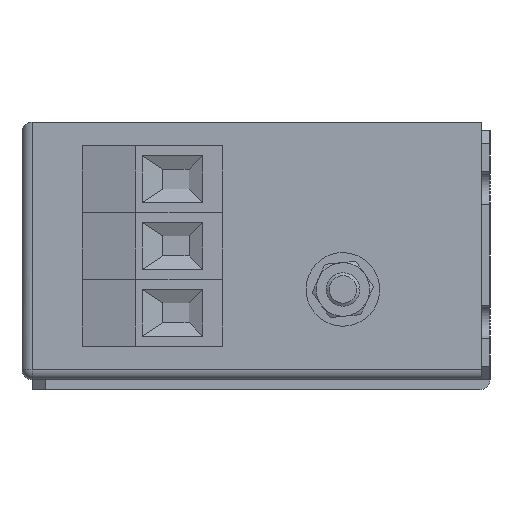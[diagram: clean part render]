
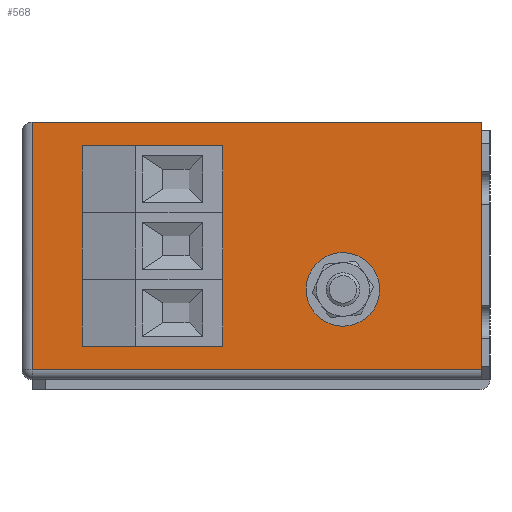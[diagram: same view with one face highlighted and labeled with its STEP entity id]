
A CAD part, left-side view. The second image highlights one B-rep face of the part: STEP entity #568.
In plain terms, the highlighted planar face has unit normal (-1, 0, 0).
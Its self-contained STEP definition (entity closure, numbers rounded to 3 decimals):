
#73 = ORIENTED_EDGE ( 'NONE', *, *, #591, .T. ) ;
#77 = EDGE_CURVE ( 'NONE', #2607, #2592, #2736, .T. ) ;
#524 = EDGE_CURVE ( 'NONE', #585, #586, #3452, .T. ) ;
#535 = VERTEX_POINT ( 'NONE', #3486 ) ;
#538 = VERTEX_POINT ( 'NONE', #3483 ) ;
#542 = VERTEX_POINT ( 'NONE', #3478 ) ;
#543 = VERTEX_POINT ( 'NONE', #3542 ) ;
#547 = EDGE_CURVE ( 'NONE', #543, #542, #3539, .T. ) ;
#564 = ORIENTED_EDGE ( 'NONE', *, *, #77, .T. ) ;
#568 = ADVANCED_FACE ( 'NONE', ( #3569, #3568, #3567, #3566, #3565 ), #3564, .F. ) ;
#569 = EDGE_LOOP ( 'NONE', ( #564, #614 ) ) ;
#585 = VERTEX_POINT ( 'NONE', #3598 ) ;
#586 = VERTEX_POINT ( 'NONE', #3597 ) ;
#591 = EDGE_CURVE ( 'NONE', #535, #538, #3578, .T. ) ;
#614 = ORIENTED_EDGE ( 'NONE', *, *, #2606, .T. ) ;
#615 = EDGE_CURVE ( 'NONE', #2601, #2600, #3613, .T. ) ;
#616 = EDGE_LOOP ( 'NONE', ( #619, #622 ) ) ;
#617 = EDGE_LOOP ( 'NONE', ( #618, #623 ) ) ;
#618 = ORIENTED_EDGE ( 'NONE', *, *, #615, .T. ) ;
#619 = ORIENTED_EDGE ( 'NONE', *, *, #621, .T. ) ;
#620 = EDGE_LOOP ( 'NONE', ( #741, #747 ) ) ;
#621 = EDGE_CURVE ( 'NONE', #542, #543, #3661, .T. ) ;
#622 = ORIENTED_EDGE ( 'NONE', *, *, #547, .T. ) ;
#623 = ORIENTED_EDGE ( 'NONE', *, *, #2599, .T. ) ;
#628 = EDGE_CURVE ( 'NONE', #636, #629, #3642, .T. ) ;
#629 = VERTEX_POINT ( 'NONE', #3638 ) ;
#636 = VERTEX_POINT ( 'NONE', #3672 ) ;
#728 = ORIENTED_EDGE ( 'NONE', *, *, #733, .T. ) ;
#732 = ORIENTED_EDGE ( 'NONE', *, *, #628, .T. ) ;
#733 = EDGE_CURVE ( 'NONE', #538, #636, #3829, .T. ) ;
#740 = VERTEX_POINT ( 'NONE', #3816 ) ;
#741 = ORIENTED_EDGE ( 'NONE', *, *, #746, .T. ) ;
#742 = EDGE_CURVE ( 'NONE', #740, #629, #3879, .T. ) ;
#743 = ORIENTED_EDGE ( 'NONE', *, *, #742, .F. ) ;
#744 = ORIENTED_EDGE ( 'NONE', *, *, #745, .T. ) ;
#745 = EDGE_CURVE ( 'NONE', #740, #535, #3875, .T. ) ;
#746 = EDGE_CURVE ( 'NONE', #586, #585, #3871, .T. ) ;
#747 = ORIENTED_EDGE ( 'NONE', *, *, #524, .T. ) ;
#748 = EDGE_LOOP ( 'NONE', ( #743, #744, #73, #728, #732 ) ) ;
#2592 = VERTEX_POINT ( 'NONE', #7129 ) ;
#2599 = EDGE_CURVE ( 'NONE', #2600, #2601, #7110, .T. ) ;
#2600 = VERTEX_POINT ( 'NONE', #7105 ) ;
#2601 = VERTEX_POINT ( 'NONE', #7104 ) ;
#2606 = EDGE_CURVE ( 'NONE', #2592, #2607, #7157, .T. ) ;
#2607 = VERTEX_POINT ( 'NONE', #7152 ) ;
#2732 = DIRECTION ( 'NONE',  ( 0., 0., -1. ) ) ;
#2733 = DIRECTION ( 'NONE',  ( 1., 0., 0. ) ) ;
#2734 = CARTESIAN_POINT ( 'NONE',  ( 15., 22., -23.8 ) ) ;
#2735 = AXIS2_PLACEMENT_3D ( 'NONE', #2734, #2733, #2732 ) ;
#2736 = CIRCLE ( 'NONE', #2735, 2.5 ) ;
#3448 = DIRECTION ( 'NONE',  ( 0., 0., -1. ) ) ;
#3449 = DIRECTION ( 'NONE',  ( 1., 0., 0. ) ) ;
#3450 = CARTESIAN_POINT ( 'NONE',  ( 15., 50., -17.3 ) ) ;
#3451 = AXIS2_PLACEMENT_3D ( 'NONE', #3450, #3449, #3448 ) ;
#3452 = CIRCLE ( 'NONE', #3451, 4.1 ) ;
#3478 = CARTESIAN_POINT ( 'NONE',  ( 15., 50., -31.4 ) ) ;
#3483 = CARTESIAN_POINT ( 'NONE',  ( 15., 1.2, -35.8 ) ) ;
#3486 = CARTESIAN_POINT ( 'NONE',  ( 15., 68.5, -35.8 ) ) ;
#3531 = DIRECTION ( 'NONE',  ( 0., 0., -1. ) ) ;
#3532 = DIRECTION ( 'NONE',  ( 1., 0., 0. ) ) ;
#3533 = CARTESIAN_POINT ( 'NONE',  ( 15., 50., -27.3 ) ) ;
#3534 = AXIS2_PLACEMENT_3D ( 'NONE', #3533, #3532, #3531 ) ;
#3539 = CIRCLE ( 'NONE', #3534, 4.1 ) ;
#3542 = CARTESIAN_POINT ( 'NONE',  ( 15., 50., -23.2 ) ) ;
#3560 = DIRECTION ( 'NONE',  ( 0., 0., -1. ) ) ;
#3561 = DIRECTION ( 'NONE',  ( 1., 0., 0. ) ) ;
#3562 = CARTESIAN_POINT ( 'NONE',  ( 15., 70., 1.2 ) ) ;
#3563 = AXIS2_PLACEMENT_3D ( 'NONE', #3562, #3561, #3560 ) ;
#3564 = PLANE ( 'NONE',  #3563 ) ;
#3565 = FACE_OUTER_BOUND ( 'NONE', #748, .T. ) ;
#3566 = FACE_BOUND ( 'NONE', #620, .T. ) ;
#3567 = FACE_BOUND ( 'NONE', #616, .T. ) ;
#3568 = FACE_BOUND ( 'NONE', #617, .T. ) ;
#3569 = FACE_BOUND ( 'NONE', #569, .T. ) ;
#3576 = VECTOR ( 'NONE', #3637, 1000. ) ;
#3577 = CARTESIAN_POINT ( 'NONE',  ( 15., 70., -35.8 ) ) ;
#3578 = LINE ( 'NONE', #3577, #3576 ) ;
#3597 = CARTESIAN_POINT ( 'NONE',  ( 15., 50., -21.4 ) ) ;
#3598 = CARTESIAN_POINT ( 'NONE',  ( 15., 50., -13.2 ) ) ;
#3609 = DIRECTION ( 'NONE',  ( 0., 0., -1. ) ) ;
#3610 = DIRECTION ( 'NONE',  ( 1., 0., 0. ) ) ;
#3611 = CARTESIAN_POINT ( 'NONE',  ( 15., 50., -7.3 ) ) ;
#3612 = AXIS2_PLACEMENT_3D ( 'NONE', #3611, #3610, #3609 ) ;
#3613 = CIRCLE ( 'NONE', #3612, 4.1 ) ;
#3637 = DIRECTION ( 'NONE',  ( 0., -1., 0. ) ) ;
#3638 = CARTESIAN_POINT ( 'NONE',  ( 15., 1.2, 1.2 ) ) ;
#3639 = DIRECTION ( 'NONE',  ( 0., 0., 1. ) ) ;
#3640 = VECTOR ( 'NONE', #3639, 1000. ) ;
#3641 = CARTESIAN_POINT ( 'NONE',  ( 15., 1.2, 1.2 ) ) ;
#3642 = LINE ( 'NONE', #3641, #3640 ) ;
#3657 = DIRECTION ( 'NONE',  ( 0., 0., -1. ) ) ;
#3658 = DIRECTION ( 'NONE',  ( 1., 0., 0. ) ) ;
#3659 = CARTESIAN_POINT ( 'NONE',  ( 15., 50., -27.3 ) ) ;
#3660 = AXIS2_PLACEMENT_3D ( 'NONE', #3659, #3658, #3657 ) ;
#3661 = CIRCLE ( 'NONE', #3660, 4.1 ) ;
#3672 = CARTESIAN_POINT ( 'NONE',  ( 15., 1.2, 0. ) ) ;
#3816 = CARTESIAN_POINT ( 'NONE',  ( 15., 68.5, 1.2 ) ) ;
#3826 = DIRECTION ( 'NONE',  ( 0., 0., 1. ) ) ;
#3827 = VECTOR ( 'NONE', #3826, 1000. ) ;
#3828 = CARTESIAN_POINT ( 'NONE',  ( 15., 1.2, 1.2 ) ) ;
#3829 = LINE ( 'NONE', #3828, #3827 ) ;
#3867 = DIRECTION ( 'NONE',  ( 0., 0., -1. ) ) ;
#3868 = DIRECTION ( 'NONE',  ( 1., 0., 0. ) ) ;
#3869 = CARTESIAN_POINT ( 'NONE',  ( 15., 50., -17.3 ) ) ;
#3870 = AXIS2_PLACEMENT_3D ( 'NONE', #3869, #3868, #3867 ) ;
#3871 = CIRCLE ( 'NONE', #3870, 4.1 ) ;
#3872 = DIRECTION ( 'NONE',  ( 0., 0., -1. ) ) ;
#3873 = VECTOR ( 'NONE', #3872, 1000. ) ;
#3874 = CARTESIAN_POINT ( 'NONE',  ( 15., 68.5, 1.2 ) ) ;
#3875 = LINE ( 'NONE', #3874, #3873 ) ;
#3876 = DIRECTION ( 'NONE',  ( 0., -1., 0. ) ) ;
#3877 = VECTOR ( 'NONE', #3876, 1000. ) ;
#3878 = CARTESIAN_POINT ( 'NONE',  ( 15., 70., 1.2 ) ) ;
#3879 = LINE ( 'NONE', #3878, #3877 ) ;
#7104 = CARTESIAN_POINT ( 'NONE',  ( 15., 50., -11.4 ) ) ;
#7105 = CARTESIAN_POINT ( 'NONE',  ( 15., 50., -3.2 ) ) ;
#7106 = DIRECTION ( 'NONE',  ( 0., 0., -1. ) ) ;
#7107 = DIRECTION ( 'NONE',  ( 1., 0., 0. ) ) ;
#7108 = CARTESIAN_POINT ( 'NONE',  ( 15., 50., -7.3 ) ) ;
#7109 = AXIS2_PLACEMENT_3D ( 'NONE', #7108, #7107, #7106 ) ;
#7110 = CIRCLE ( 'NONE', #7109, 4.1 ) ;
#7129 = CARTESIAN_POINT ( 'NONE',  ( 15., 22., -21.3 ) ) ;
#7152 = CARTESIAN_POINT ( 'NONE',  ( 15., 22., -26.3 ) ) ;
#7153 = DIRECTION ( 'NONE',  ( 0., 0., -1. ) ) ;
#7154 = DIRECTION ( 'NONE',  ( 1., 0., 0. ) ) ;
#7155 = CARTESIAN_POINT ( 'NONE',  ( 15., 22., -23.8 ) ) ;
#7156 = AXIS2_PLACEMENT_3D ( 'NONE', #7155, #7154, #7153 ) ;
#7157 = CIRCLE ( 'NONE', #7156, 2.5 ) ;
